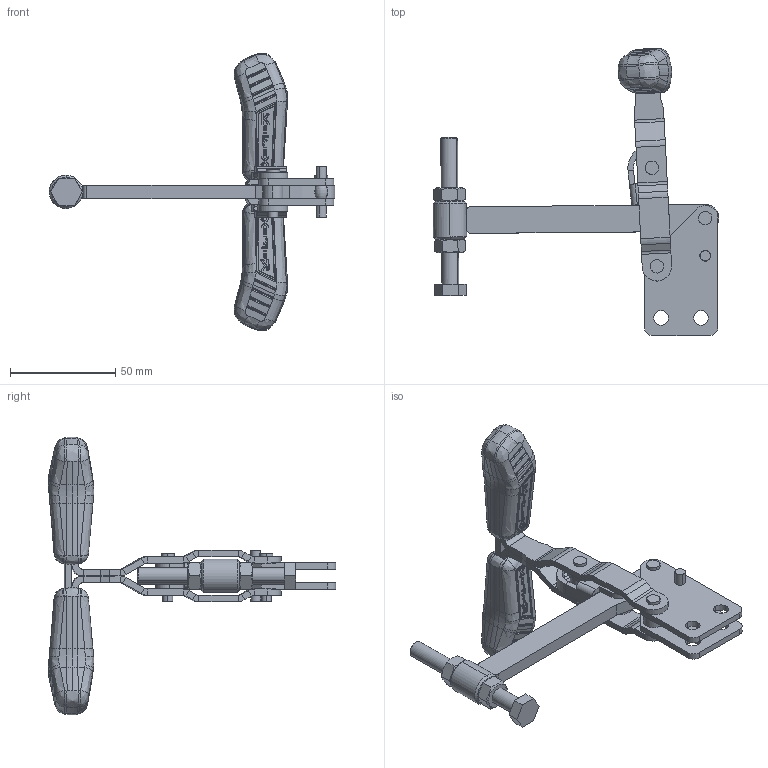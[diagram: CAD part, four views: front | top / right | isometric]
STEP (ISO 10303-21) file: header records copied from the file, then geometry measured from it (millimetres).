
FILE_DESCRIPTION (( 'STEP AP203' ), '1' );
FILE_NAME ('KF-017 RTS.STEP', '2018-06-04T19:24:24', ( 'Ricardo' ), ( '' ), 'SwSTEP 2.0', 'SolidWorks 2018', '' );
FILE_SCHEMA (( 'CONFIG_CONTROL_DESIGN' ));
Length unit declared in the file: millimetre
Products named in the file (15): 20.20004; 06.50001; 12.50020; 05.20017; 11.50002; 01.10324; PSB-M8; 04.10001; KF-017 RTS; 06.50002; 04.20001; 01.10325; 02.11001; 07.60005; 03.15007
Assembly tree (21 placements, depth 3):
  KF-017 RTS
    02.11001  x2
    03.15007
    06.50001  x2
    05.20017  x2
    01.10324  x2
    04.10001
    06.50002  x2
    04.20001
    01.10325
    07.60005  x2
    PSB-M8
      20.20004
      12.50020
      11.50002  x2
Bounding box: 136.04 x 136.72 x 132.26 mm (x, y, z)
Volume: 79722 mm3; surface area: 48726.2 mm2
Topology: 20 solids, 20 shells, 1621 faces, 4096 edges, 2544 vertices
Faces by surface type: bspline 538, cylinder 495, plane 436, sphere 100, cone 46, torus 6
Entity records: 34412 total; most frequent: CARTESIAN_POINT 14377, ORIENTED_EDGE 4340, DIRECTION 3089, EDGE_CURVE 2170, VERTEX_POINT 1355, AXIS2_PLACEMENT_3D 1147, EDGE_LOOP 925, ADVANCED_FACE 864
